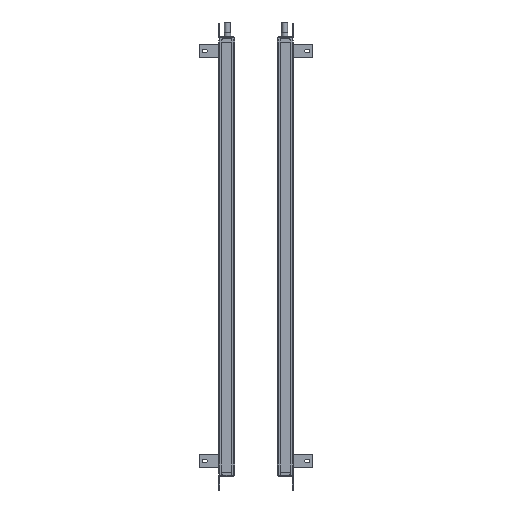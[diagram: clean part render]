
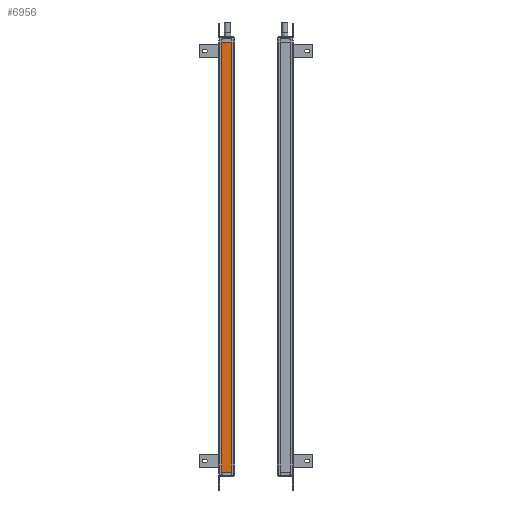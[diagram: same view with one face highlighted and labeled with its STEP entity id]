
A CAD part, left-side view. The second image highlights one B-rep face of the part: STEP entity #6956.
In plain terms, the highlighted planar face has unit normal (-1, 0, 0).
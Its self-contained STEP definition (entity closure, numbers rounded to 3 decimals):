
#953=FACE_OUTER_BOUND('',#9034,.T.);
#2188=LINE('',#33710,#4326);
#2290=LINE('',#34050,#4428);
#2291=LINE('',#34052,#4429);
#2292=LINE('',#34054,#4430);
#4326=VECTOR('',#26897,1.);
#4428=VECTOR('',#27185,1.);
#4429=VECTOR('',#27188,1.);
#4430=VECTOR('',#27189,1.);
#6178=PLANE('',#23723);
#6956=ADVANCED_FACE('',(#953),#6178,.T.);
#9034=EDGE_LOOP('',(#11681,#11682,#11683,#11684));
#11681=ORIENTED_EDGE('',*,*,#19828,.F.);
#11682=ORIENTED_EDGE('',*,*,#19829,.T.);
#11683=ORIENTED_EDGE('',*,*,#19830,.T.);
#11684=ORIENTED_EDGE('',*,*,#19658,.F.);
#17203=VERTEX_POINT('',#33709);
#17204=VERTEX_POINT('',#33711);
#17348=VERTEX_POINT('',#34049);
#17349=VERTEX_POINT('',#34053);
#19658=EDGE_CURVE('',#17203,#17204,#2188,.T.);
#19828=EDGE_CURVE('',#17348,#17203,#2290,.T.);
#19829=EDGE_CURVE('',#17348,#17349,#2291,.T.);
#19830=EDGE_CURVE('',#17349,#17204,#2292,.T.);
#23723=AXIS2_PLACEMENT_3D('',#34055,#27190,#27191);
#26897=DIRECTION('',(0.,-1.,0.));
#27185=DIRECTION('',(0.,0.,1.));
#27188=DIRECTION('',(0.,-1.,0.));
#27189=DIRECTION('',(0.,0.,1.));
#27190=DIRECTION('',(-1.,0.,0.));
#27191=DIRECTION('',(0.,-1.,0.));
#33709=CARTESIAN_POINT('',(233.846,104.141,31.645));
#33710=CARTESIAN_POINT('',(233.846,81.141,31.645));
#33711=CARTESIAN_POINT('',(233.846,81.141,31.645));
#34049=CARTESIAN_POINT('',(233.846,104.141,-943.355));
#34050=CARTESIAN_POINT('',(233.846,104.141,-155.355));
#34052=CARTESIAN_POINT('',(233.846,81.141,-943.355));
#34053=CARTESIAN_POINT('',(233.846,81.141,-943.355));
#34054=CARTESIAN_POINT('',(233.846,81.141,-155.355));
#34055=CARTESIAN_POINT('',(233.846,81.141,-50.355));
